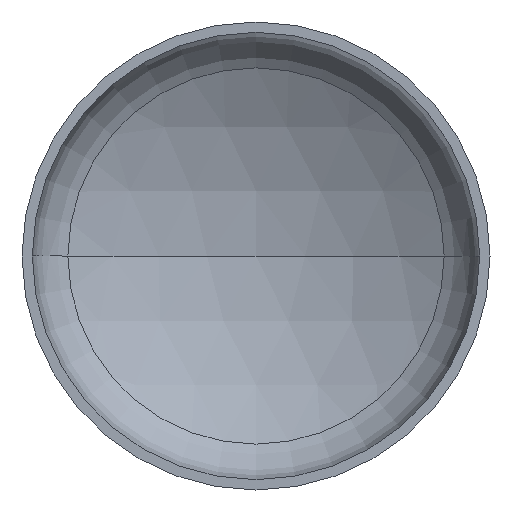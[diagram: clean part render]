
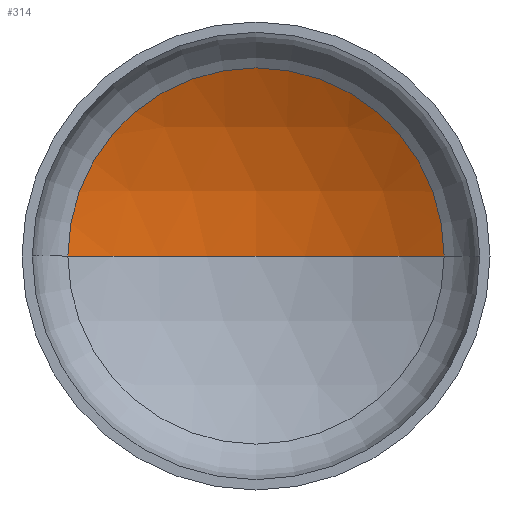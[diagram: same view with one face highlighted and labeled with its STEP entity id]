
A CAD part, front view. The second image highlights one B-rep face of the part: STEP entity #314.
In plain terms, the highlighted spherical face has radius 325 mm.
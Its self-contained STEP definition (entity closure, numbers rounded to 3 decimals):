
#17 = EDGE_LOOP ( 'NONE', ( #109, #96, #44 ) ) ;
#24 = DIRECTION ( 'NONE',  ( 1., 0., 0. ) ) ;
#33 = DIRECTION ( 'NONE',  ( 0., -1., 0. ) ) ;
#35 = VERTEX_POINT ( 'NONE', #289 ) ;
#36 = AXIS2_PLACEMENT_3D ( 'NONE', #394, #130, #171 ) ;
#44 = ORIENTED_EDGE ( 'NONE', *, *, #162, .T. ) ;
#81 = VERTEX_POINT ( 'NONE', #265 ) ;
#85 = AXIS2_PLACEMENT_3D ( 'NONE', #219, #201, #217 ) ;
#87 = AXIS2_PLACEMENT_3D ( 'NONE', #384, #243, #198 ) ;
#90 = AXIS2_PLACEMENT_3D ( 'NONE', #165, #33, #24 ) ;
#92 = VERTEX_POINT ( 'NONE', #247 ) ;
#96 = ORIENTED_EDGE ( 'NONE', *, *, #163, .T. ) ;
#109 = ORIENTED_EDGE ( 'NONE', *, *, #164, .F. ) ;
#130 = DIRECTION ( 'NONE',  ( 0., 0., -1. ) ) ;
#162 = EDGE_CURVE ( 'NONE', #92, #81, #301, .T. ) ;
#163 = EDGE_CURVE ( 'NONE', #35, #92, #232, .T. ) ;
#164 = EDGE_CURVE ( 'NONE', #35, #81, #408, .T. ) ;
#165 = CARTESIAN_POINT ( 'NONE',  ( 0., 83.598, 0. ) ) ;
#171 = DIRECTION ( 'NONE',  ( -1., 0., 0. ) ) ;
#198 = DIRECTION ( 'NONE',  ( -1., 0., 0. ) ) ;
#201 = DIRECTION ( 'NONE',  ( 0., 0., 1. ) ) ;
#214 = SPHERICAL_SURFACE ( 'NONE', #36, 325. ) ;
#217 = DIRECTION ( 'NONE',  ( 1., 0., 0. ) ) ;
#219 = CARTESIAN_POINT ( 'NONE',  ( 0., -197.359, 0. ) ) ;
#232 = CIRCLE ( 'NONE', #87, 325. ) ;
#243 = DIRECTION ( 'NONE',  ( 0., 0., -1. ) ) ;
#247 = CARTESIAN_POINT ( 'NONE',  ( 163.365, 83.598, 0. ) ) ;
#265 = CARTESIAN_POINT ( 'NONE',  ( -163.365, 83.598, 0. ) ) ;
#278 = FACE_OUTER_BOUND ( 'NONE', #17, .T. ) ;
#289 = CARTESIAN_POINT ( 'NONE',  ( 0., 127.641, 0. ) ) ;
#301 = CIRCLE ( 'NONE', #90, 163.365 ) ;
#314 = ADVANCED_FACE ( 'NONE', ( #278 ), #214, .F. ) ;
#384 = CARTESIAN_POINT ( 'NONE',  ( 0., -197.359, 0. ) ) ;
#394 = CARTESIAN_POINT ( 'NONE',  ( 0., -197.359, 0. ) ) ;
#408 = CIRCLE ( 'NONE', #85, 325. ) ;
